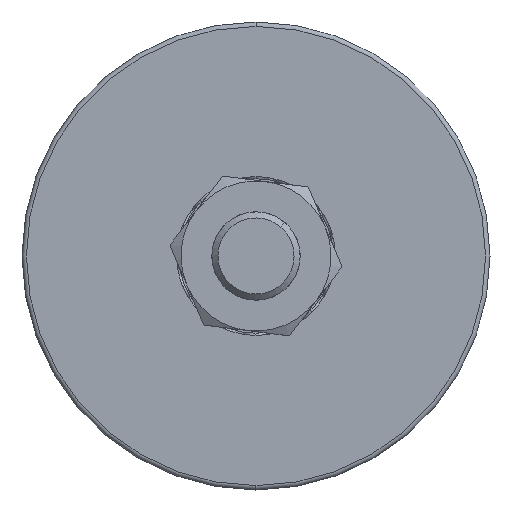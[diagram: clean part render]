
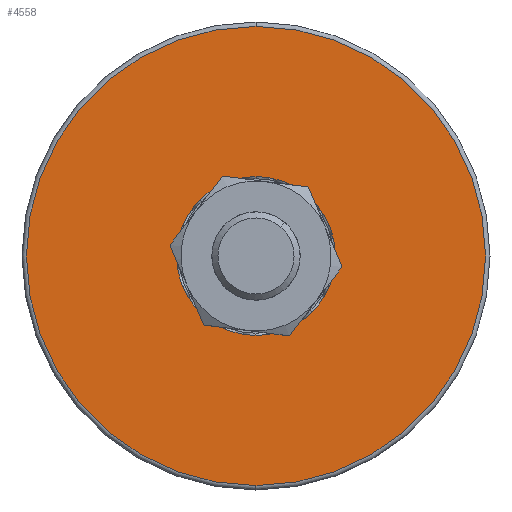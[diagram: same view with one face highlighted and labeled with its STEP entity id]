
A CAD part, left-side view. The second image highlights one B-rep face of the part: STEP entity #4558.
In plain terms, the highlighted planar face has unit normal (-1, 0, 0).
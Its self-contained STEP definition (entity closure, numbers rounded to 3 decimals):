
#376 = CIRCLE ( 'NONE', #18384, 52. ) ;
#505 = DIRECTION ( 'NONE',  ( -1., 0., 0. ) ) ;
#729 = FACE_BOUND ( 'NONE', #2827, .T. ) ;
#1361 = CIRCLE ( 'NONE', #8913, 18. ) ;
#1946 = AXIS2_PLACEMENT_3D ( 'NONE', #16456, #3182, #8907 ) ;
#2581 = CARTESIAN_POINT ( 'NONE',  ( 0., 0., 52. ) ) ;
#2827 = EDGE_LOOP ( 'NONE', ( #13890, #3585 ) ) ;
#2912 = CARTESIAN_POINT ( 'NONE',  ( 0., 0., 0. ) ) ;
#3103 = PLANE ( 'NONE',  #4249 ) ;
#3182 = DIRECTION ( 'NONE',  ( -1., 0., 0. ) ) ;
#3342 = CARTESIAN_POINT ( 'NONE',  ( 0., 0., -52. ) ) ;
#3585 = ORIENTED_EDGE ( 'NONE', *, *, #7904, .F. ) ;
#3970 = AXIS2_PLACEMENT_3D ( 'NONE', #10816, #7946, #15765 ) ;
#4249 = AXIS2_PLACEMENT_3D ( 'NONE', #2912, #5961, #7446 ) ;
#4558 = ADVANCED_FACE ( 'NONE', ( #729, #12763 ), #3103, .F. ) ;
#5744 = CIRCLE ( 'NONE', #1946, 52. ) ;
#5961 = DIRECTION ( 'NONE',  ( 1., 0., 0. ) ) ;
#6269 = EDGE_CURVE ( 'NONE', #16633, #11514, #1361, .T. ) ;
#7223 = DIRECTION ( 'NONE',  ( -1., 0., 0. ) ) ;
#7446 = DIRECTION ( 'NONE',  ( 0., 0., -1. ) ) ;
#7870 = CARTESIAN_POINT ( 'NONE',  ( 0., 0., 0. ) ) ;
#7904 = EDGE_CURVE ( 'NONE', #11514, #16633, #10171, .T. ) ;
#7946 = DIRECTION ( 'NONE',  ( -1., 0., 0. ) ) ;
#8907 = DIRECTION ( 'NONE',  ( 0., 0., 1. ) ) ;
#8913 = AXIS2_PLACEMENT_3D ( 'NONE', #7870, #505, #13842 ) ;
#10141 = EDGE_CURVE ( 'NONE', #11127, #14403, #376, .T. ) ;
#10171 = CIRCLE ( 'NONE', #3970, 18. ) ;
#10816 = CARTESIAN_POINT ( 'NONE',  ( 0., 0., 0. ) ) ;
#11127 = VERTEX_POINT ( 'NONE', #3342 ) ;
#11514 = VERTEX_POINT ( 'NONE', #13956 ) ;
#11790 = EDGE_LOOP ( 'NONE', ( #13061, #19133 ) ) ;
#11998 = CARTESIAN_POINT ( 'NONE',  ( 0., 0., 18. ) ) ;
#12763 = FACE_OUTER_BOUND ( 'NONE', #11790, .T. ) ;
#13061 = ORIENTED_EDGE ( 'NONE', *, *, #16203, .T. ) ;
#13842 = DIRECTION ( 'NONE',  ( 0., 0., 1. ) ) ;
#13890 = ORIENTED_EDGE ( 'NONE', *, *, #6269, .F. ) ;
#13956 = CARTESIAN_POINT ( 'NONE',  ( 0., 0., -18. ) ) ;
#14403 = VERTEX_POINT ( 'NONE', #2581 ) ;
#15765 = DIRECTION ( 'NONE',  ( 0., 0., 1. ) ) ;
#16203 = EDGE_CURVE ( 'NONE', #14403, #11127, #5744, .T. ) ;
#16284 = DIRECTION ( 'NONE',  ( 0., 0., 1. ) ) ;
#16456 = CARTESIAN_POINT ( 'NONE',  ( 0., 0., 0. ) ) ;
#16633 = VERTEX_POINT ( 'NONE', #11998 ) ;
#17719 = CARTESIAN_POINT ( 'NONE',  ( 0., 0., 0. ) ) ;
#18384 = AXIS2_PLACEMENT_3D ( 'NONE', #17719, #7223, #16284 ) ;
#19133 = ORIENTED_EDGE ( 'NONE', *, *, #10141, .T. ) ;
